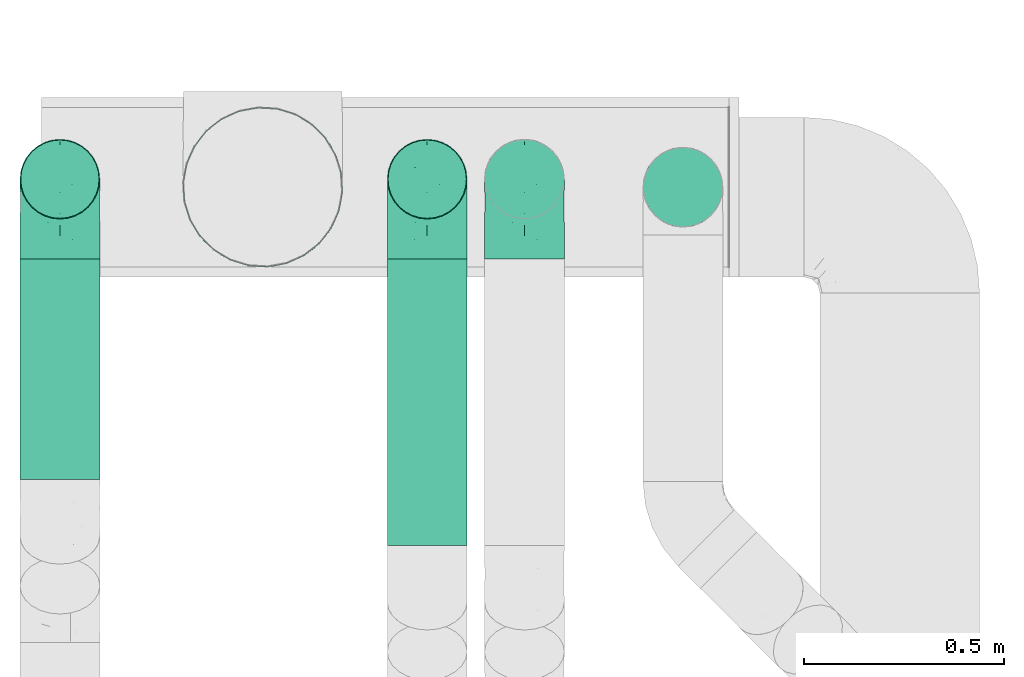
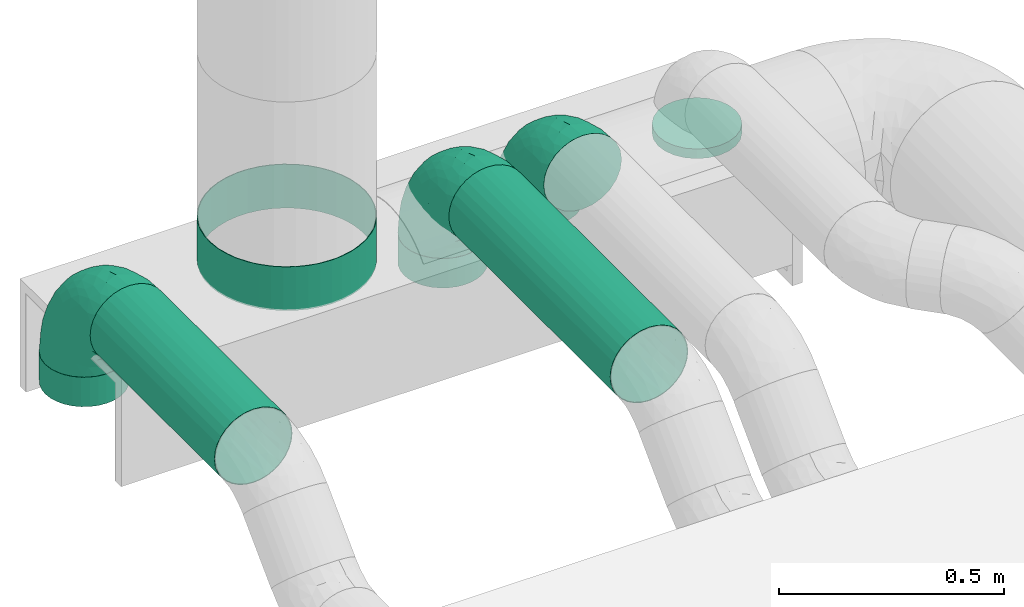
# One storey, part 3 of 9: 5 flow segments, 4 flow fittings.
"""IFC2X3 building model written with IfcOpenShell, lengths in millimetres."""

from ifc_helpers import new_model, entity, si_unit, converted_unit, derived_unit, direction, frame, origin_with_axes, origin_2d_with_axis, place, context, subcontext, project, spatial, hollow_circle, extrude, open_shell, surface_model, source, transform, mapped, type_object, element, save


model = new_model("IFC2X3")

# Units and contexts
model_context = context("Model", 3, precision=0.01, world=frame((0.0, 4.29681676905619e-09, 0.0)), true_north=direction((4.01073788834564e-13, 1.0)))
plan_context = context("Plan", 3, precision=0.01, world=frame((0.0, 4.29681676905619e-09, 0.0)), true_north=direction((4.01073788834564e-13, 1.0)))
body_context = subcontext(model_context, "Body", "Model", "MODEL_VIEW")
ifc_project = project(units=[converted_unit("PLANEANGLEUNIT", "DEGREE", entity("IfcPositiveLengthMeasure", 0.0174532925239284), si_unit("PLANEANGLEUNIT", "RADIAN"), dimensions=[0, 0, 0, 0, 0, 0, 0]), si_unit("AREAUNIT", "SQUARE_METRE"), si_unit("LENGTHUNIT", "METRE", prefix="MILLI"), si_unit("MASSUNIT", "GRAM", prefix="KILO"), si_unit("POWERUNIT", "WATT"), si_unit("PRESSUREUNIT", "PASCAL"), si_unit("FORCEUNIT", "NEWTON", prefix="KILO"), si_unit("ELECTRICVOLTAGEUNIT", "VOLT"), si_unit("ELECTRICCURRENTUNIT", "AMPERE"), si_unit("THERMODYNAMICTEMPERATUREUNIT", "DEGREE_CELSIUS"), si_unit("TIMEUNIT", "SECOND"), si_unit("VOLUMEUNIT", "CUBIC_METRE"), derived_unit("LINEARVELOCITYUNIT", [(si_unit("LENGTHUNIT", "METRE"), 1), (si_unit("TIMEUNIT", "SECOND"), -1)]), derived_unit("VOLUMETRICFLOWRATEUNIT", [(si_unit("VOLUMEUNIT", "CUBIC_METRE"), 1), (si_unit("TIMEUNIT", "SECOND"), -1)]), derived_unit("THERMALTRANSMITTANCEUNIT", [(si_unit("POWERUNIT", "WATT"), 1), (si_unit("THERMODYNAMICTEMPERATUREUNIT", "KELVIN"), -1), (si_unit("AREAUNIT", "SQUARE_METRE"), -1)]), derived_unit("SOUNDPRESSUREUNIT", [(si_unit("PRESSUREUNIT", "PASCAL"), 1)])], contexts=[model_context, plan_context])

# Site, building, storey
site_placement = place(None, frame((0.0, -4.29681676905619e-09, 0.0), z_axis=(0.0, 0.0, 1.0), x_axis=(1.0, 0.0, 0.0)))
site = spatial("IfcSite", under=ifc_project, at=site_placement, Name="ENGM", CompositionType="ELEMENT")
building_placement = place(site_placement, frame((0.0, 4.29681676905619e-09, 0.0), z_axis=(0.0, 0.0, 1.0), x_axis=(1.0, 0.0, 0.0)))
building = spatial("IfcBuilding", under=site, at=building_placement, Name="TH", CompositionType="ELEMENT")
storey_placement = place(building_placement, frame((0.0, 0.0, 205200.0), z_axis=(0.0, 0.0, 1.0), x_axis=(1.0, 0.0, 0.0)))
storey = spatial("IfcBuildingStorey", under=building, at=storey_placement, Name="Nivå D + 1,2 m", CompositionType="ELEMENT", Elevation=205200.0)

# Flow fittings
duct_fitting_type_1 = type_object("IfcDuctFittingType", Name="magicirc_tapoutlet_001", PredefinedType="CONNECTOR")
shared_shape_1 = source(origin_with_axes(), body_context, "Body", "SurfaceModel", [
    surface_model("IfcShellBasedSurfaceModel", [(20.0, -96.59259, -25.8819), (20.0, -100.0, 0.0), (0.0, -100.0, 0.0), (0.0, -96.59259, -25.8819), (-6.096, 100.0, 0.0), (-6.096, 96.59259, -25.8819), (-6.096, 96.59259, 25.8819), (20.0, -86.60254, -50.0), (20.0, -96.59259, 25.8819), (-6.096, -25.8819, -96.59259), (-6.096, -100.0, 0.0), (-6.096, 0.0, -100.0), (-6.096, -50.0, -86.60254), (-6.096, -70.71068, -70.71068), (-6.096, -86.60254, -50.0), (-6.096, 70.71068, -70.71068), (-6.096, 50.0, -86.60254), (-6.096, 25.8819, -96.59259), (-6.096, 86.60254, -50.0), (-6.096, -96.59259, -25.8819), (-6.096, -96.59259, 25.8819), (-6.096, -86.60254, 50.0), (-6.096, -70.71068, 70.71068), (-6.096, -25.8819, 96.59259), (-6.096, -50.0, 86.60254), (-6.096, 25.8819, 96.59259), (-6.096, 70.71068, 70.71068), (-6.096, 86.60254, 50.0), (-6.096, 50.0, 86.60254), (-6.096, 0.0, 100.0), (0.0, -25.8819, 96.59259), (0.0, 0.0, 100.0), (0.0, -50.0, 86.60254), (0.0, -70.71068, 70.71068), (0.0, -96.59259, 25.8819), (0.0, -86.60254, 50.0), (0.0, -86.60254, -50.0), (0.0, -70.71068, -70.71068), (0.0, 0.0, -100.0), (0.0, -25.8819, -96.59259), (0.0, -50.0, -86.60254), (0.0, 25.8819, -96.59259), (0.0, 50.0, -86.60254), (0.0, 70.71068, -70.71068), (0.0, 96.59259, -25.8819), (0.0, 86.60254, -50.0), (0.0, 100.0, 0.0), (0.0, 96.59259, 25.8819), (0.0, 86.60254, 50.0), (0.0, 70.71068, 70.71068), (0.0, 25.8819, 96.59259), (0.0, 50.0, 86.60254), (20.0, 0.0, -100.0), (20.0, 25.8819, -96.59259), (20.0, -25.8819, -96.59259), (20.0, -50.0, -86.60254), (20.0, -70.71068, -70.71068), (20.0, 100.0, 0.0), (20.0, 96.59259, 25.8819), (20.0, 70.71068, -70.71068), (20.0, 50.0, -86.60254), (20.0, 96.59259, -25.8819), (20.0, 86.60254, -50.0), (20.0, -86.60254, 50.0), (20.0, -70.71068, 70.71068), (20.0, -50.0, 86.60254), (20.0, -25.8819, 96.59259), (20.0, 0.0, 100.0), (20.0, 86.60254, 50.0), (20.0, 70.71068, 70.71068), (20.0, 25.8819, 96.59259), (20.0, 50.0, 86.60254)], [open_shell([[[0, 1, 2]], [[3, 0, 2]], [[4, 5, 6]], [[7, 8, 0]], [[1, 0, 8]], [[9, 10, 11]], [[12, 10, 9]], [[10, 13, 14]], [[10, 12, 13]], [[15, 11, 6]], [[11, 16, 17]], [[11, 15, 16]], [[18, 6, 5]], [[6, 18, 15]], [[10, 14, 19]], [[20, 21, 11]], [[21, 22, 11]], [[23, 11, 24]], [[11, 22, 24]], [[11, 23, 25]], [[11, 26, 27]], [[6, 11, 27]], [[11, 28, 26]], [[25, 28, 11]], [[23, 29, 25]], [[20, 11, 10]], [[30, 31, 29]], [[32, 30, 23]], [[23, 30, 29]], [[22, 33, 24]], [[32, 23, 24]], [[32, 24, 33]], [[34, 35, 21]], [[2, 34, 20]], [[21, 35, 22]], [[34, 21, 20]], [[2, 20, 10]], [[33, 22, 35]], [[3, 2, 10]], [[36, 3, 19]], [[19, 3, 10]], [[13, 37, 14]], [[36, 19, 14]], [[36, 14, 37]], [[9, 38, 39]], [[12, 39, 40]], [[12, 40, 13]], [[38, 9, 11]], [[12, 9, 39]], [[37, 13, 40]], [[41, 38, 11]], [[42, 41, 17]], [[17, 41, 11]], [[15, 43, 16]], [[42, 17, 16]], [[42, 16, 43]], [[44, 45, 18]], [[46, 44, 5]], [[18, 45, 15]], [[44, 18, 5]], [[46, 5, 4]], [[43, 15, 45]], [[47, 46, 4]], [[48, 47, 6]], [[6, 47, 4]], [[26, 49, 27]], [[48, 6, 27]], [[48, 27, 49]], [[50, 51, 28]], [[31, 50, 25]], [[28, 51, 26]], [[50, 28, 25]], [[31, 25, 29]], [[49, 26, 51]], [[52, 53, 54]], [[54, 8, 55]], [[7, 56, 8]], [[8, 56, 55]], [[54, 57, 58]], [[59, 57, 60]], [[54, 53, 60]], [[61, 57, 62]], [[59, 62, 57]], [[60, 57, 54]], [[0, 7, 8]], [[63, 8, 54]], [[54, 64, 63]], [[65, 54, 66]], [[65, 64, 54]], [[67, 66, 54]], [[68, 69, 54]], [[54, 58, 68]], [[70, 67, 71]], [[54, 69, 71]], [[71, 67, 54]], [[66, 67, 31]], [[65, 66, 30]], [[30, 66, 31]], [[33, 64, 32]], [[65, 30, 32]], [[65, 32, 64]], [[8, 63, 35]], [[1, 8, 34]], [[35, 63, 33]], [[8, 35, 34]], [[1, 34, 2]], [[64, 33, 63]], [[7, 0, 3]], [[37, 56, 36]], [[7, 3, 36]], [[7, 36, 56]], [[39, 52, 54]], [[40, 54, 55]], [[40, 55, 37]], [[52, 39, 38]], [[40, 39, 54]], [[56, 37, 55]], [[53, 52, 38]], [[60, 53, 41]], [[41, 53, 38]], [[43, 59, 42]], [[60, 41, 42]], [[60, 42, 59]], [[61, 62, 45]], [[57, 61, 44]], [[45, 62, 43]], [[61, 45, 44]], [[57, 44, 46]], [[59, 43, 62]], [[58, 57, 46]], [[68, 58, 47]], [[47, 58, 46]], [[49, 69, 48]], [[68, 47, 48]], [[68, 48, 69]], [[70, 71, 51]], [[67, 70, 50]], [[51, 71, 49]], [[70, 51, 50]], [[67, 50, 31]], [[69, 49, 71]], [[56, 55, 8]]])]),
])
flow_fitting_placement = place(storey_placement, frame((896718.71393, 480797.12038, 4266.87078), z_axis=(-1.0, 0.0, 0.0), x_axis=(0.0, 0.0, 1.0)))
element("IfcFlowFitting", 1, at=flow_fitting_placement, inside=storey, type_object=duct_fitting_type_1, Name="magicirc_tapoutlet_001", context=body_context, shape_type="MappedRepresentation", body=[
    mapped(shared_shape_1, transform((0.0, 0.0, 0.0), scale=1.0)),
])
duct_fitting_type_2 = type_object("IfcDuctFittingType", Name="magicirc_elbow_full_radius_001", PredefinedType="BEND")
shared_shape_2 = source(origin_with_axes(), body_context, "Body", "SurfaceModel", [
    surface_model("IfcShellBasedSurfaceModel", [(-200.0, 50.0, -86.60254), (-200.0, 25.8819, -96.59259), (-200.0, 70.71068, -70.71068), (-200.0, 96.59259, -25.8819), (-200.0, 86.60254, -50.0), (-200.0, -50.0, -86.60254), (-200.0, -70.71068, -70.71068), (-200.0, -25.8819, -96.59259), (-200.0, 0.0, -100.0), (-200.0, -86.60254, -50.0), (-200.0, -96.59259, -25.8819), (-200.0, -96.59259, 25.8819), (-200.0, -100.0, 0.0), (-200.0, 86.60254, 50.0), (-200.0, 96.59259, 25.8819), (-200.0, 100.0, 0.0), (-200.0, -50.0, 86.60254), (-200.0, 25.8819, 96.59259), (-200.0, 50.0, 86.60254), (-200.0, 70.71068, 70.71068), (-200.0, -86.60254, 50.0), (-200.0, -70.71068, 70.71068), (-200.0, -25.8819, 96.59259), (-200.0, 0.0, 100.0), (25.8819, 200.0, -96.59259), (70.71068, 200.0, -70.71068), (50.0, 200.0, -86.60254), (0.0, 200.0, -100.0), (96.59259, 200.0, -25.8819), (86.60254, 200.0, -50.0), (96.59259, 200.0, 25.8819), (70.71068, 200.0, 70.71068), (86.60254, 200.0, 50.0), (50.0, 200.0, 86.60254), (-25.8819, 200.0, 96.59259), (25.8819, 200.0, 96.59259), (-170.28345, -80.453, 57.20341), (-151.30505, -62.14272, 74.57098), (-141.47291, -94.23558, 0.0), (-152.48501, -91.13434, 31.26682), (-175.16033, -97.5535, 0.0), (49.44088, 33.32893, 0.0), (56.65771, 47.69157, 17.5513), (30.78646, 10.59845, 0.0), (-115.72747, -62.79147, 65.02361), (-110.24866, -47.46346, 77.46704), (-131.78251, -77.03572, 52.17296), (-155.84565, 81.73243, 67.52503), (-165.38682, 59.81194, 83.11685), (-153.53621, -15.46231, 97.89391), (-99.34826, -9.37473, 94.63603), (-109.04028, 19.17637, 99.9709), (0.0, 200.0, 100.0), (-11.41001, 147.58509, 99.90915), (-66.65717, -62.98288, 31.65851), (-19.65477, -37.28433, 19.69829), (-42.80044, -46.52394, 38.2888), (-76.76667, -58.58513, 50.26593), (-107.75087, -80.71677, 29.70656), (-170.73585, -40.65955, 90.5511), (-172.81551, 101.70087, 19.84455), (-146.92494, 108.70969, 32.98808), (-141.22148, 119.0983, 0.0), (-63.14521, 144.11081, 85.31109), (-80.51529, 161.84448, 66.62709), (-89.41257, 123.59035, 75.49114), (-59.28706, 175.69502, 82.02298), (-50.0, 200.0, 86.60254), (-70.71068, 200.0, 70.71068), (-159.40173, 10.55746, 99.80411), (77.16386, 85.19497, 0.0), (62.56216, 67.38452, 33.69402), (-96.59259, 200.0, 25.8819), (-101.70087, 172.81551, 19.84455), (-93.96462, 171.01, 43.43771), (-171.01, 93.96462, 43.43771), (-151.20277, 37.27353, 95.35782), (-100.76094, 141.8163, 52.73949), (-123.065, 123.065, 41.02461), (-115.71118, 115.71117, 58.92154), (-108.70969, 146.92494, 32.98808), (-169.09831, 104.89435, 0.0), (-126.3807, 68.32629, 87.09158), (-3.53309, 67.51081, 92.91692), (-29.40722, 29.40721, 91.09367), (0.78973, 37.96478, 81.45071), (-60.00062, -0.36077, 89.58959), (-67.88209, 21.58789, 97.54896), (62.32031, 154.13138, 74.86163), (-141.8163, 100.76094, 52.73949), (91.13434, 152.48501, 31.26682), (80.453, 170.28345, 57.20341), (-86.60254, 200.0, 50.0), (-18.49849, -12.30744, 60.90175), (8.80323, 19.6267, 65.08263), (-25.42255, 3.46809, 77.76258), (-74.03921, 114.7783, 87.77152), (-87.24231, 87.48345, 91.33971), (-52.29396, 97.96814, 97.88047), (97.5535, 175.16033, 0.0), (15.66986, 158.34417, 98.04921), (39.67143, 143.40046, 88.65468), (-104.89435, 169.09831, 0.0), (-119.0983, 141.22148, 0.0), (-79.31604, 55.69606, 99.29154), (50.31225, 117.34231, 77.16335), (77.03572, 131.78251, 52.17296), (-113.91527, 94.9934, 76.65605), (64.93177, 92.97178, 51.47516), (47.72556, 81.69016, 66.67609), (40.01044, 43.97718, 50.57869), (-17.45546, -26.87288, 41.03287), (-127.86769, 127.86769, 19.95139), (-100.0, 200.0, 0.0), (-59.26195, -63.30237, 0.0), (-33.32893, -49.44088, 0.0), (-15.13235, 108.44666, 99.8016), (9.03102, 110.97634, 96.23014), (-35.35458, 66.6809, 99.29493), (-36.40308, 160.4143, 94.8486), (-32.26105, 126.83648, 98.54453), (5.63455, -13.55537, 26.35365), (8.74012, 0.17058, 45.65263), (46.65777, 40.2329, 34.44568), (80.66195, 107.48302, 29.60457), (85.69972, 113.33393, 0.0), (28.17336, 90.6004, 84.77214), (-103.20436, 61.65595, 95.02282), (-132.43349, -38.40548, 87.83865), (-113.33393, -85.69972, 0.0), (-87.1495, -28.94235, 83.35483), (-47.7214, -39.47514, 54.58142), (-52.3084, 125.73797, 93.79051), (25.86889, 52.68176, 71.74074), (63.30237, 59.26195, 0.0), (94.23558, 141.47291, 0.0), (29.54521, 14.24018, 30.32032), (-85.19497, -77.16386, 0.0), (-50.98503, -24.63183, 71.83876), (-81.69017, -47.72556, 66.67609), (-10.59845, -30.78646, 0.0), (12.13203, -12.13203, 0.0), (100.0, 200.0, 0.0), (-160.4143, 36.40307, -94.8486), (-126.83648, 32.26105, -98.54453), (-147.58509, 11.41001, -99.90915), (-50.0, 200.0, -86.60254), (-59.81194, 165.3868, -83.11686), (-70.71068, 200.0, -70.71068), (-158.34417, -15.66986, -98.0492), (-110.97634, -9.03102, -96.23014), (12.30745, 18.4985, -60.90175), (-19.62669, -8.80321, -65.08265), (-3.46809, 25.42255, -77.76258), (-114.7783, 74.03921, -87.77153), (-87.48346, 87.2423, -91.33971), (-97.96814, 52.29396, -97.88047), (-172.81551, 101.70087, -19.84455), (13.55537, -5.63454, -26.35364), (-0.17055, -8.74011, -45.6526), (26.87289, 17.45547, -41.03286), (-146.92494, 108.70969, -32.98808), (-47.69157, -56.65771, -17.5513), (-123.06501, 123.065, -41.02461), (-127.86769, 127.86769, -19.95139), (-108.70969, 146.92494, -32.98808), (-175.69502, 59.28706, -82.02298), (-161.84448, 80.51529, -66.62709), (-144.11081, 63.14521, -85.31109), (62.98288, 66.65718, -31.65851), (-81.73243, 155.84565, -67.52503), (-86.60254, 200.0, -50.0), (-141.8163, 100.76093, -52.73949), (-171.01, 93.96462, -43.43771), (-55.69606, 79.31604, -99.29154), (-66.68089, 35.35458, -99.29493), (-152.48501, -91.13434, -31.26682), (-170.28345, -80.45301, -57.20341), (-92.97178, -64.93177, -51.47516), (-81.69017, -47.72556, -66.67608), (-43.97716, -40.01043, -50.57869), (-10.55746, 159.40173, -99.80411), (15.46231, 153.53621, -97.89391), (-154.13138, -62.32031, -74.86163), (-143.40046, -39.67143, -88.65468), (-37.27353, 151.20276, -95.35782), (-25.8819, 200.0, -96.59259), (-107.48302, -80.66195, -29.60457), (0.36078, 60.00061, -89.58959), (-29.40721, 29.40721, -91.09366), (-21.58789, 67.88208, -97.54896), (-100.76094, 141.8163, -52.73949), (-93.96462, 171.01, -43.43771), (-96.59259, 200.0, -25.8819), (-101.70087, 172.81551, -19.84455), (-19.17637, 109.04027, -99.9709), (-123.59035, 89.41257, -75.49114), (62.14272, 151.30505, -74.57098), (40.65955, 170.73585, -90.5511), (46.52395, 42.80044, -38.28881), (37.28435, 19.6548, -19.69829), (-68.3263, 126.38069, -87.09158), (-67.51081, 3.53309, -92.91692), (-37.96476, -0.78971, -81.45071), (58.58512, 76.76664, -50.26592), (-67.38452, -62.56216, -33.69402), (80.45301, 170.28345, -57.20341), (80.71677, 107.75087, -29.70656), (38.40548, 132.43348, -87.83865), (62.79147, 115.72747, -65.02361), (47.46347, 110.24866, -77.46703), (91.13434, 152.48501, -31.26682), (-40.2329, -46.65777, -34.44568), (-90.60041, -28.17337, -84.77214), (77.03572, 131.78251, -52.17296), (9.37473, 99.34825, -94.63603), (-117.34231, -50.31225, -77.16335), (-131.78251, -77.03572, -52.17296), (-94.99341, 113.91526, -76.65605), (-108.44666, 15.13234, -99.8016), (-61.65596, 103.20434, -95.02282), (28.94235, 87.1495, -83.35483), (39.47513, 47.72139, -54.58143), (-125.73797, 52.30839, -93.79051), (-52.68177, -25.86889, -71.74075), (-115.71118, 115.71117, -58.92154), (-14.24018, -29.54521, -30.32033), (24.63182, 50.98504, -71.83876), (47.72556, 81.69017, -66.67609)], [open_shell([[[0, 1, 2]], [[3, 4, 2]], [[5, 6, 7]], [[6, 8, 7]], [[9, 10, 6]], [[11, 10, 12]], [[11, 6, 10]], [[13, 14, 15]], [[16, 13, 6]], [[13, 17, 18]], [[19, 13, 18]], [[17, 13, 16]], [[20, 21, 11]], [[16, 11, 21]], [[16, 22, 17]], [[16, 6, 11]], [[17, 22, 23]], [[13, 15, 6]], [[24, 25, 26]], [[24, 27, 25]], [[25, 28, 29]], [[30, 31, 32]], [[31, 30, 33]], [[34, 35, 33]], [[21, 36, 37]], [[38, 39, 40]], [[41, 42, 43]], [[44, 45, 37]], [[36, 39, 46]], [[47, 19, 48]], [[49, 50, 51]], [[52, 34, 53]], [[54, 55, 56]], [[57, 58, 54]], [[16, 21, 37]], [[19, 18, 48]], [[16, 59, 22]], [[60, 61, 62]], [[63, 64, 65]], [[66, 67, 68]], [[19, 47, 13]], [[23, 69, 17]], [[42, 70, 71]], [[72, 73, 74]], [[59, 49, 22]], [[21, 20, 36]], [[75, 14, 13]], [[75, 61, 60]], [[76, 18, 17]], [[15, 14, 60]], [[77, 78, 79]], [[77, 74, 80]], [[60, 62, 81]], [[22, 49, 23]], [[82, 48, 76]], [[83, 84, 85]], [[54, 56, 57]], [[86, 84, 87]], [[33, 88, 31]], [[89, 61, 75]], [[30, 32, 90]], [[31, 91, 32]], [[64, 68, 92]], [[93, 94, 95]], [[96, 97, 98]], [[90, 99, 30]], [[35, 100, 101]], [[101, 88, 33]], [[102, 103, 73]], [[97, 104, 98]], [[105, 106, 88]], [[90, 32, 91]], [[107, 47, 82]], [[101, 33, 35]], [[108, 109, 110]], [[80, 73, 103]], [[56, 55, 111]], [[103, 62, 112]], [[102, 73, 113]], [[87, 104, 51]], [[114, 115, 54]], [[78, 112, 61]], [[116, 117, 53]], [[104, 118, 98]], [[64, 63, 66]], [[53, 119, 120]], [[121, 122, 111]], [[71, 123, 42]], [[34, 67, 119]], [[119, 53, 34]], [[117, 100, 53]], [[90, 124, 125]], [[126, 101, 117]], [[52, 100, 35]], [[69, 23, 49]], [[20, 11, 39]], [[127, 51, 104]], [[124, 90, 106]], [[108, 110, 71]], [[74, 92, 72]], [[64, 77, 65]], [[50, 49, 128]], [[69, 51, 76]], [[44, 37, 46]], [[59, 37, 128]], [[39, 11, 40]], [[39, 129, 58]], [[108, 124, 106]], [[74, 73, 80]], [[50, 130, 86]], [[50, 86, 87]], [[56, 111, 131]], [[58, 46, 39]], [[66, 119, 67]], [[120, 132, 98]], [[105, 88, 101]], [[91, 88, 106]], [[110, 109, 133]], [[55, 121, 111]], [[84, 95, 85]], [[84, 86, 95]], [[51, 69, 49]], [[76, 17, 69]], [[53, 100, 52]], [[101, 100, 117]], [[76, 48, 18]], [[47, 48, 82]], [[79, 107, 65]], [[97, 96, 107]], [[107, 79, 89]], [[97, 107, 82]], [[51, 127, 76]], [[132, 96, 98]], [[82, 127, 97]], [[51, 50, 87]], [[83, 118, 84]], [[116, 53, 120]], [[84, 118, 87]], [[104, 87, 118]], [[134, 70, 42]], [[125, 135, 90]], [[80, 78, 77]], [[64, 92, 74]], [[65, 77, 79]], [[64, 74, 77]], [[13, 47, 75]], [[89, 79, 78]], [[75, 47, 89]], [[107, 89, 47]], [[110, 136, 123]], [[54, 58, 137]], [[130, 50, 128]], [[95, 94, 85]], [[138, 86, 130]], [[131, 93, 138]], [[45, 130, 128]], [[130, 139, 138]], [[94, 133, 85]], [[83, 126, 117]], [[85, 133, 126]], [[83, 117, 116]], [[85, 126, 83]], [[126, 109, 105]], [[138, 93, 95]], [[122, 93, 111]], [[138, 95, 86]], [[131, 138, 139]], [[131, 139, 57]], [[93, 131, 111]], [[44, 57, 139]], [[58, 57, 46]], [[94, 122, 110]], [[126, 133, 109]], [[94, 110, 133]], [[123, 71, 110]], [[57, 56, 131]], [[54, 137, 114]], [[121, 140, 141]], [[43, 121, 141]], [[55, 140, 121]], [[122, 121, 136]], [[110, 122, 136]], [[93, 122, 94]], [[132, 119, 63]], [[116, 98, 118]], [[98, 116, 120]], [[83, 116, 118]], [[119, 132, 120]], [[132, 63, 96]], [[63, 65, 96]], [[107, 96, 65]], [[126, 105, 101]], [[105, 109, 108]], [[11, 12, 40]], [[99, 90, 135]], [[99, 142, 30]], [[113, 73, 72]], [[80, 103, 112]], [[89, 78, 61]], [[61, 112, 62]], [[80, 112, 78]], [[15, 60, 81]], [[75, 60, 14]], [[64, 66, 68]], [[119, 66, 63]], [[37, 59, 16]], [[49, 59, 128]], [[39, 36, 20]], [[37, 36, 46]], [[88, 91, 31]], [[90, 91, 106]], [[71, 70, 124]], [[124, 108, 71]], [[105, 108, 106]], [[57, 44, 46]], [[45, 44, 139]], [[130, 45, 139]], [[37, 45, 128]], [[54, 115, 55]], [[121, 43, 136]], [[76, 127, 82]], [[104, 97, 127]], [[124, 70, 125]], [[129, 39, 38]], [[129, 137, 58]], [[136, 43, 42]], [[136, 42, 123]], [[134, 42, 41]], [[55, 115, 140]], [[143, 144, 145]], [[146, 147, 148]], [[149, 145, 150]], [[151, 152, 153]], [[145, 1, 143]], [[154, 155, 156]], [[81, 157, 15]], [[158, 159, 160]], [[161, 157, 62]], [[115, 162, 140]], [[163, 164, 165]], [[166, 167, 168]], [[134, 41, 169]], [[148, 170, 171]], [[172, 173, 161]], [[174, 175, 156]], [[176, 9, 177]], [[178, 179, 180]], [[176, 40, 10]], [[181, 27, 182]], [[183, 5, 184]], [[1, 0, 143]], [[7, 184, 5]], [[185, 146, 186]], [[24, 182, 27]], [[176, 10, 9]], [[177, 9, 6]], [[176, 187, 129]], [[6, 5, 183]], [[149, 184, 7]], [[188, 189, 190]], [[155, 174, 156]], [[164, 62, 103]], [[191, 165, 192]], [[163, 165, 191]], [[192, 193, 171]], [[193, 194, 113]], [[190, 174, 195]], [[168, 167, 196]], [[194, 192, 165]], [[157, 173, 3]], [[197, 26, 25]], [[198, 182, 24]], [[170, 148, 147]], [[166, 0, 2]], [[27, 181, 186]], [[199, 200, 160]], [[185, 201, 147]], [[202, 189, 203]], [[24, 26, 198]], [[199, 169, 200]], [[169, 199, 204]], [[162, 137, 205]], [[25, 29, 206]], [[207, 169, 204]], [[81, 62, 157]], [[198, 197, 208]], [[7, 8, 149]], [[209, 210, 197]], [[167, 2, 4]], [[211, 99, 135]], [[205, 212, 162]], [[213, 184, 150]], [[211, 214, 206]], [[29, 28, 211]], [[215, 195, 182]], [[194, 165, 103]], [[8, 1, 145]], [[216, 217, 183]], [[194, 103, 102]], [[218, 170, 201]], [[219, 150, 145]], [[220, 195, 174]], [[187, 176, 217]], [[178, 180, 205]], [[173, 4, 3]], [[167, 172, 196]], [[206, 197, 25]], [[209, 197, 214]], [[215, 182, 208]], [[181, 195, 185]], [[211, 28, 99]], [[211, 125, 207]], [[178, 187, 217]], [[28, 142, 99]], [[215, 221, 188]], [[215, 188, 190]], [[199, 160, 222]], [[207, 214, 211]], [[166, 143, 0]], [[144, 223, 156]], [[216, 183, 184]], [[177, 183, 217]], [[180, 179, 224]], [[200, 158, 160]], [[189, 153, 203]], [[189, 188, 153]], [[195, 181, 182]], [[185, 186, 181]], [[145, 149, 8]], [[184, 149, 150]], [[185, 147, 146]], [[170, 147, 201]], [[225, 218, 196]], [[155, 154, 218]], [[218, 225, 191]], [[155, 218, 201]], [[195, 220, 185]], [[223, 154, 156]], [[201, 220, 155]], [[195, 215, 190]], [[202, 175, 189]], [[219, 145, 144]], [[189, 175, 190]], [[174, 190, 175]], [[114, 137, 162]], [[129, 38, 176]], [[161, 163, 172]], [[167, 4, 173]], [[196, 172, 225]], [[167, 173, 172]], [[171, 170, 192]], [[191, 225, 163]], [[192, 170, 191]], [[218, 191, 170]], [[180, 226, 212]], [[169, 207, 70]], [[221, 215, 208]], [[153, 152, 203]], [[227, 188, 221]], [[222, 151, 227]], [[210, 221, 208]], [[221, 228, 227]], [[152, 224, 203]], [[202, 213, 150]], [[203, 224, 213]], [[202, 150, 219]], [[203, 213, 202]], [[213, 179, 216]], [[227, 151, 153]], [[159, 151, 160]], [[227, 153, 188]], [[222, 227, 228]], [[222, 228, 204]], [[151, 222, 160]], [[209, 204, 228]], [[207, 204, 214]], [[152, 159, 180]], [[213, 224, 179]], [[152, 180, 224]], [[212, 205, 180]], [[204, 199, 222]], [[169, 70, 134]], [[158, 43, 141]], [[140, 158, 141]], [[200, 43, 158]], [[159, 158, 226]], [[180, 159, 226]], [[151, 159, 152]], [[223, 143, 168]], [[219, 156, 175]], [[156, 219, 144]], [[202, 219, 175]], [[143, 223, 144]], [[223, 168, 154]], [[168, 196, 154]], [[218, 154, 196]], [[213, 216, 184]], [[216, 179, 178]], [[40, 176, 38]], [[40, 12, 10]], [[173, 157, 161]], [[15, 157, 3]], [[172, 163, 225]], [[164, 161, 62]], [[165, 164, 103]], [[161, 164, 163]], [[113, 194, 102]], [[192, 194, 193]], [[167, 166, 2]], [[143, 166, 168]], [[197, 198, 26]], [[182, 198, 208]], [[211, 206, 29]], [[197, 206, 214]], [[183, 177, 6]], [[176, 177, 217]], [[205, 137, 187]], [[187, 178, 205]], [[216, 178, 217]], [[204, 209, 214]], [[210, 209, 228]], [[221, 210, 228]], [[197, 210, 208]], [[169, 41, 200]], [[158, 140, 226]], [[185, 220, 201]], [[174, 155, 220]], [[187, 137, 129]], [[125, 211, 135]], [[125, 70, 207]], [[226, 140, 162]], [[226, 162, 212]], [[114, 162, 115]], [[200, 41, 43]], [[1, 8, 3]], [[1, 3, 2]], [[15, 8, 6]], [[3, 8, 15]], [[186, 30, 27]], [[148, 186, 146]], [[30, 148, 171]], [[186, 148, 30]], [[25, 27, 30]], [[142, 28, 30]], [[28, 25, 30]], [[30, 171, 193]], [[113, 72, 92]], [[30, 113, 92]], [[67, 34, 92]], [[67, 92, 68]], [[33, 92, 34]], [[33, 30, 92]], [[52, 35, 34]], [[113, 30, 193]]])]),
])
for number, where, z_axis, x_axis, name in (
    (2, (895158.11568, 480817.20154, 4402.11017999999), (-1.0, 0.0, 0.0), (0.0, 1.0, 0.0), "magicirc_elbow_full_radius_001"),
    (3, (896078.11568, 480817.20154, 4402.11017999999), (-1.0, 0.0, 0.0), (0.0, 1.0, 0.0), "magicirc_elbow_full_radius_001"),
    (4, (896321.62292, 480817.20154, 4402.11017999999), (-1.0, 0.0, 0.0), (0.0, 1.0, 0.0), "magicirc_elbow_full_radius_001"),
):
    element("IfcFlowFitting", number, at=place(storey_placement, frame(where, z_axis=z_axis, x_axis=x_axis)), inside=storey, type_object=duct_fitting_type_2, Name=name, context=body_context, shape_type="MappedRepresentation", body=[
        mapped(shared_shape_2, transform((0.0, 0.0, 0.0), scale=1.0)),
    ])

# Flow segments
duct_segment_type_1 = type_object("IfcDuctSegmentType", Name="2 - Spiro kanaler, Forsinket stål", PredefinedType="RIGIDSEGMENT")
shared_shape_3 = source(origin_with_axes(), body_context, "Body", "SweptSolid", [
    extrude(hollow_circle(Radius=200.0, WallThickness=2.0, at=origin_2d_with_axis()), frame((0.0, 0.0, 0.0), z_axis=(1.0, 0.0, 0.0), x_axis=(0.0, 1.0, 0.0)), (0.0, 0.0, 1.0), 118.9),
])
flow_segment_1_placement = place(storey_placement, frame((895666.49216, 480797.12038, 4286.87078), z_axis=(1.0, 0.0, 0.0), x_axis=(0.0, 0.0, 1.0)))
element("IfcFlowSegment", 5, at=flow_segment_1_placement, inside=storey, type_object=duct_segment_type_1, Name="2 - Spiro kanaler, Forsinket stål", context=body_context, shape_type="MappedRepresentation", body=[
    mapped(shared_shape_3, transform((0.0, 0.0, 0.0), scale=1.0)),
])
duct_segment_type_2 = type_object("IfcDuctSegmentType", Name="4 - Spiro kanaler, korte bend", PredefinedType="RIGIDSEGMENT")
shared_shape_4 = source(origin_with_axes(), body_context, "Body", "SweptSolid", [
    extrude(hollow_circle(Radius=100.0, WallThickness=2.0, at=origin_2d_with_axis()), frame((0.0, 0.0, 0.0), z_axis=(1.0, 0.0, 0.0), x_axis=(0.0, 1.0, 0.0)), (0.0, 0.0, 1.0), 552.2),
])
flow_segment_2_placement = place(storey_placement, frame((895158.11568, 480065.04425, 4402.11017999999), z_axis=(0.0, 0.0, 1.0), x_axis=(0.0, 1.0, 0.0)))
element("IfcFlowSegment", 6, at=flow_segment_2_placement, inside=storey, type_object=duct_segment_type_2, Name="4 - Spiro kanaler, korte bend", context=body_context, shape_type="MappedRepresentation", body=[
    mapped(shared_shape_4, transform((0.0, 0.0, 0.0), scale=1.0)),
])
shared_shape_5 = source(origin_with_axes(), body_context, "Body", "SweptSolid", [
    extrude(hollow_circle(Radius=100.0, WallThickness=2.0, at=origin_2d_with_axis()), frame((0.0, 0.0, 0.0), z_axis=(1.0, 0.0, 0.0), x_axis=(0.0, 1.0, 0.0)), (0.0, 0.0, 1.0), 80.0),
])
for number, where, z_axis, x_axis, name in (
    (7, (895158.11568, 480817.20154, 4202.11017999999), (0.0, -1.0, 0.0), (0.0, 0.0, -1.0), "4 - Spiro kanaler, korte bend"),
    (8, (896078.11568, 480817.20154, 4202.11017999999), (0.0, -1.0, 0.0), (0.0, 0.0, -1.0), "4 - Spiro kanaler, korte bend"),
):
    element("IfcFlowSegment", number, at=place(storey_placement, frame(where, z_axis=z_axis, x_axis=x_axis)), inside=storey, type_object=duct_segment_type_2, Name=name, context=body_context, shape_type="MappedRepresentation", body=[
        mapped(shared_shape_5, transform((0.0, 0.0, 0.0), scale=1.0)),
    ])
shared_shape_6 = source(origin_with_axes(), body_context, "Body", "SweptSolid", [
    extrude(hollow_circle(Radius=100.0, WallThickness=2.0, at=origin_2d_with_axis()), frame((0.0, 0.0, 0.0), z_axis=(1.0, 0.0, 0.0), x_axis=(0.0, 1.0, 0.0)), (0.0, 0.0, 1.0), 717.2),
])
flow_segment_3_placement = place(storey_placement, frame((896078.11568, 479900.04425, 4402.11017999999), z_axis=(0.0, 0.0, 1.0), x_axis=(0.0, 1.0, 0.0)))
element("IfcFlowSegment", 9, at=flow_segment_3_placement, inside=storey, type_object=duct_segment_type_2, Name="4 - Spiro kanaler, korte bend", context=body_context, shape_type="MappedRepresentation", body=[
    mapped(shared_shape_6, transform((0.0, 0.0, 0.0), scale=1.0)),
])

save(model, "model.ifc")
